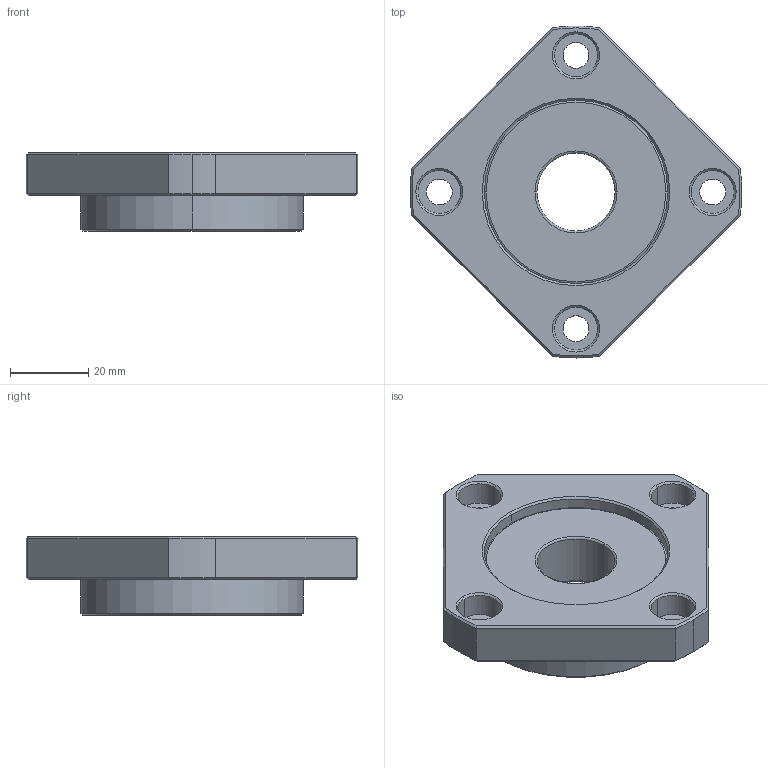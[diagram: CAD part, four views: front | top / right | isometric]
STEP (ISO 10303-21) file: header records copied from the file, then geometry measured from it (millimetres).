
FILE_DESCRIPTION (( 'STEP AP203' ), '1' );
FILE_NAME ('FF20.STEP', '2017-03-22T06:24:42', ( '' ), ( '' ), 'SwSTEP 2.0', 'SolidWorks 2017', '' );
FILE_SCHEMA (( 'CONFIG_CONTROL_DESIGN' ));
Length unit declared in the file: millimetre
Products named in the file (1): FF20
Bounding box: 84.9 x 85 x 20 mm (x, y, z)
Volume: 54333.9 mm3; surface area: 15386.8 mm2
Topology: 1 solids, 1 shells, 82 faces, 186 edges, 113 vertices
Faces by surface type: cylinder 29, cone 24, plane 21, torus 8
Entity records: 2424 total; most frequent: DIRECTION 441, CARTESIAN_POINT 430, ORIENTED_EDGE 372, AXIS2_PLACEMENT_3D 188, EDGE_CURVE 186, VERTEX_POINT 113, CIRCLE 105, EDGE_LOOP 99
